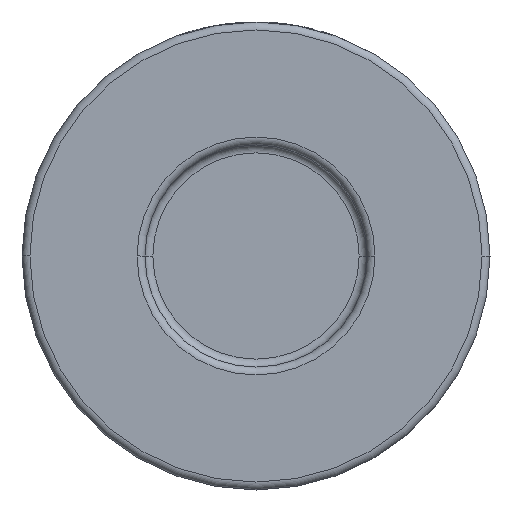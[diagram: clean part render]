
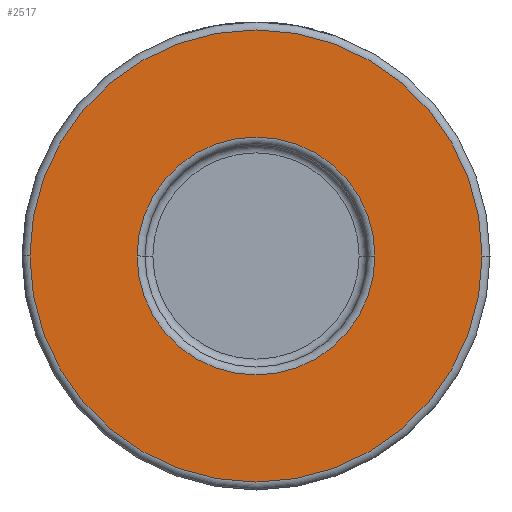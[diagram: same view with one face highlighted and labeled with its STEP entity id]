
A CAD part, front view. The second image highlights one B-rep face of the part: STEP entity #2517.
In plain terms, the highlighted planar face has unit normal (0, -1, 0).
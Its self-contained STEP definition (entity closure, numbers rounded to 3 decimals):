
#24 = AXIS2_PLACEMENT_3D ( 'NONE', #134, #4266, #1566 ) ;
#134 = CARTESIAN_POINT ( 'NONE',  ( 0., -19., 0. ) ) ;
#223 = DIRECTION ( 'NONE',  ( 1., 0., 0. ) ) ;
#272 = CIRCLE ( 'NONE', #2805, 15. ) ;
#330 = ORIENTED_EDGE ( 'NONE', *, *, #1961, .T. ) ;
#411 = CARTESIAN_POINT ( 'NONE',  ( 29.5, -19., 0. ) ) ;
#429 = PLANE ( 'NONE',  #1780 ) ;
#441 = CARTESIAN_POINT ( 'NONE',  ( 0., -19., 0. ) ) ;
#485 = ORIENTED_EDGE ( 'NONE', *, *, #1494, .T. ) ;
#587 = CIRCLE ( 'NONE', #24, 28.5 ) ;
#744 = CIRCLE ( 'NONE', #3280, 15. ) ;
#822 = DIRECTION ( 'NONE',  ( 0., 1., 0. ) ) ;
#1087 = FACE_BOUND ( 'NONE', #2157, .T. ) ;
#1115 = CARTESIAN_POINT ( 'NONE',  ( 28.5, -19., 0. ) ) ;
#1136 = DIRECTION ( 'NONE',  ( 1., 0., 0. ) ) ;
#1196 = DIRECTION ( 'NONE',  ( 0., -1., 0. ) ) ;
#1474 = DIRECTION ( 'NONE',  ( 1., 0., 0. ) ) ;
#1494 = EDGE_CURVE ( 'NONE', #1921, #2184, #4285, .T. ) ;
#1566 = DIRECTION ( 'NONE',  ( 1., 0., 0. ) ) ;
#1780 = AXIS2_PLACEMENT_3D ( 'NONE', #411, #3195, #1474 ) ;
#1812 = VERTEX_POINT ( 'NONE', #4443 ) ;
#1828 = DIRECTION ( 'NONE',  ( 1., 0., 0. ) ) ;
#1849 = CARTESIAN_POINT ( 'NONE',  ( 0., -19., 0. ) ) ;
#1921 = VERTEX_POINT ( 'NONE', #4279 ) ;
#1961 = EDGE_CURVE ( 'NONE', #3422, #1812, #272, .T. ) ;
#2157 = EDGE_LOOP ( 'NONE', ( #4026, #330 ) ) ;
#2184 = VERTEX_POINT ( 'NONE', #1115 ) ;
#2239 = CARTESIAN_POINT ( 'NONE',  ( 0., -19., 0. ) ) ;
#2346 = AXIS2_PLACEMENT_3D ( 'NONE', #2239, #1196, #223 ) ;
#2413 = EDGE_LOOP ( 'NONE', ( #4282, #485 ) ) ;
#2517 = ADVANCED_FACE ( 'NONE', ( #1087, #3540 ), #429, .T. ) ;
#2649 = EDGE_CURVE ( 'NONE', #2184, #1921, #587, .T. ) ;
#2805 = AXIS2_PLACEMENT_3D ( 'NONE', #441, #822, #1828 ) ;
#3155 = CARTESIAN_POINT ( 'NONE',  ( -15., -19., 0. ) ) ;
#3195 = DIRECTION ( 'NONE',  ( 0., -1., 0. ) ) ;
#3280 = AXIS2_PLACEMENT_3D ( 'NONE', #1849, #3569, #1136 ) ;
#3422 = VERTEX_POINT ( 'NONE', #3155 ) ;
#3540 = FACE_OUTER_BOUND ( 'NONE', #2413, .T. ) ;
#3569 = DIRECTION ( 'NONE',  ( 0., 1., 0. ) ) ;
#4011 = EDGE_CURVE ( 'NONE', #1812, #3422, #744, .T. ) ;
#4026 = ORIENTED_EDGE ( 'NONE', *, *, #4011, .T. ) ;
#4266 = DIRECTION ( 'NONE',  ( 0., -1., 0. ) ) ;
#4279 = CARTESIAN_POINT ( 'NONE',  ( -28.5, -19., 0. ) ) ;
#4282 = ORIENTED_EDGE ( 'NONE', *, *, #2649, .T. ) ;
#4285 = CIRCLE ( 'NONE', #2346, 28.5 ) ;
#4443 = CARTESIAN_POINT ( 'NONE',  ( 15., -19., 0. ) ) ;
